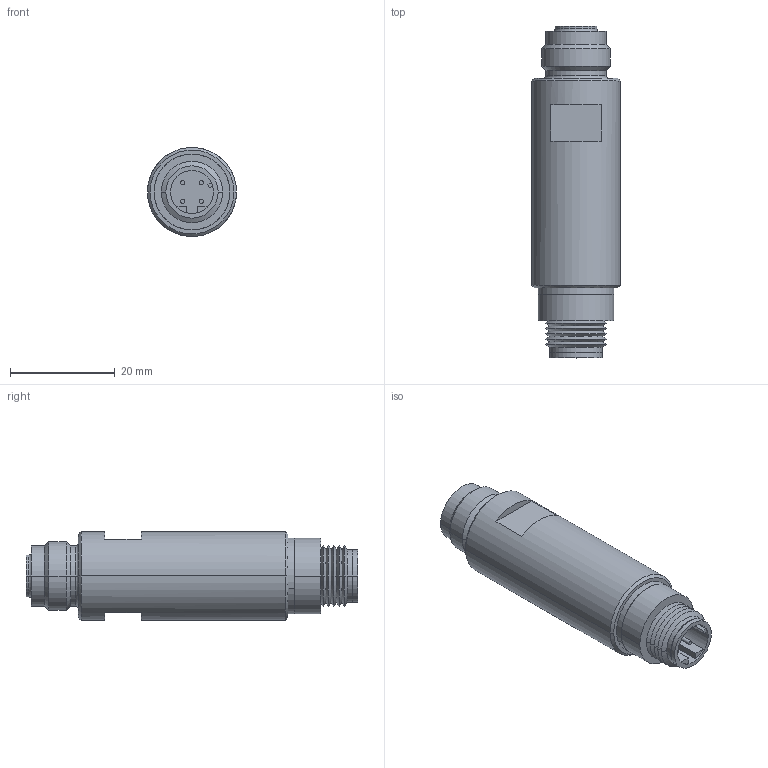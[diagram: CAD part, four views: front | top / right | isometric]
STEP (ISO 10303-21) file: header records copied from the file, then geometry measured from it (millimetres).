
FILE_DESCRIPTION((''),'2;1');
FILE_NAME('1655305_B_SW0001','2016-10-11T',('Alessandro.DANELUZZI'),(''),'PRO/ENGINEER BY PARAMETRIC TECHNOLOGY CORPORATION, 2015030','PRO/ENGINEER BY PARAMETRIC TECHNOLOGY CORPORATION, 2015030','');
FILE_SCHEMA(('CONFIG_CONTROL_DESIGN'));
Length unit declared in the file: millimetre
Products named in the file (1): 1655305_B_SW0001
Bounding box: 17 x 63.37 x 16.95 mm (x, y, z)
Surface area: 9588.6 mm2 (no closed solid volume)
Topology: 0 solids, 24 shells, 648 faces, 2051 edges, 1397 vertices
Faces by surface type: plane 394, cylinder 164, extrusion 36, cone 34, torus 18, bspline 2
Entity records: 24782 total; most frequent: CARTESIAN_POINT 6716, DIRECTION 3679, ORIENTED_EDGE 3526, EDGE_CURVE 2051, VECTOR 1471, LINE 1435, VERTEX_POINT 1397, AXIS2_PLACEMENT_3D 1104
